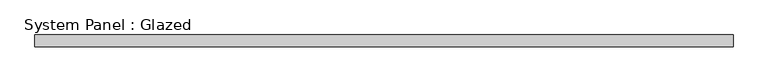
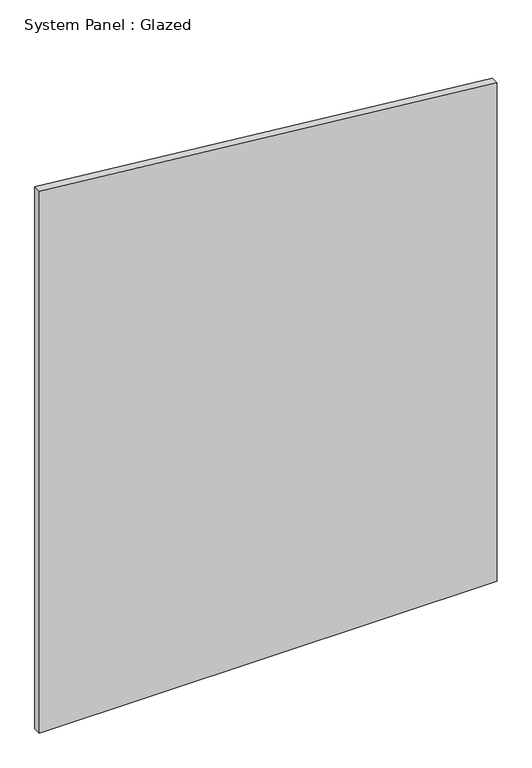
"""IFC4 building model written with IfcOpenShell, lengths in millimetres: plate geometry, System Panel : Glazed."""

from ifc_helpers import new_model, si_unit, frame, origin, place, context, project, spatial, polyline, outline, extrude, source, transform, mapped, element, save


def system_panel_glazed_705fa753(model_context):
    return source(origin(), model_context, "Body", "SweptSolid", [
        extrude(outline(polyline([(0.0, -735.8695652), (0.0, 735.8695652), (1693.4918627, 735.8695652), (1841.4748414, -735.8695652), (0.0, -735.8695652)])), frame((0.0, 24.5, 0.0), z_axis=(0.0, 1.0, 0.0), x_axis=(0.0, 0.0, 1.0)), (0.0, 0.0, 1.0), 25.0),
    ])


if __name__ == "__main__":
    model = new_model("IFC4")
    model_context = context("Model", 3, world=origin())
    ifc_project = project(units=[si_unit("LENGTHUNIT", "METRE", prefix="MILLI")], contexts=[model_context])
    site = spatial("IfcSite", under=ifc_project)
    building = spatial("IfcBuilding", under=site)
    placement = place(None, origin())
    system_panel_glazed_shape = system_panel_glazed_705fa753(model_context)
    element("IfcPlate", 1, ObjectType="System Panel : Glazed", at=placement, inside=building, context=model_context, shape_type="MappedRepresentation", body=[
        mapped(system_panel_glazed_shape, transform((0.0, 0.0, 0.0), x_axis=(1.0, 0.0, 0.0), y_axis=(0.0, 1.0, 0.0), z_axis=(0.0, 0.0, 1.0))),
    ])
    save(model, "model.ifc")
